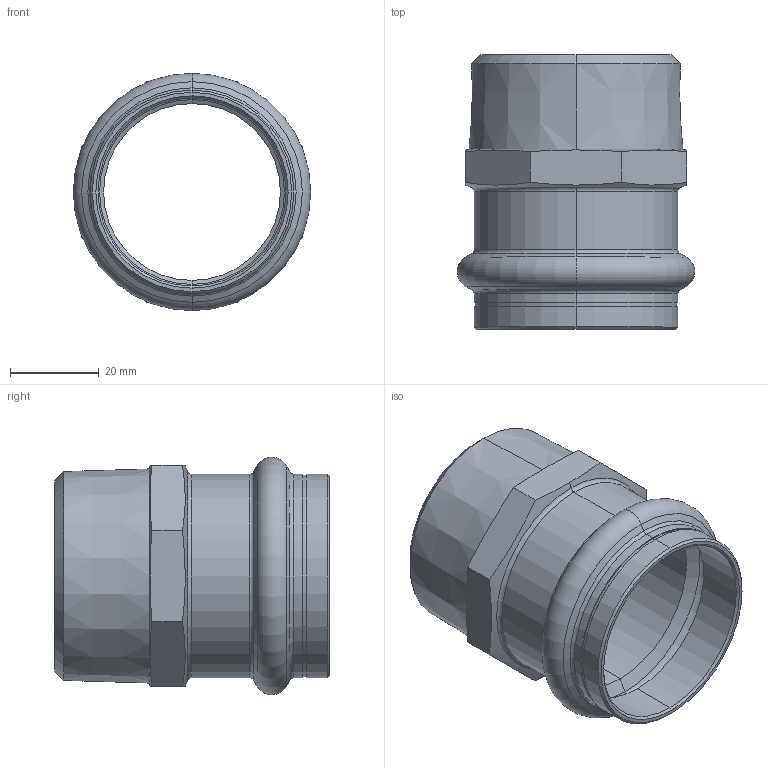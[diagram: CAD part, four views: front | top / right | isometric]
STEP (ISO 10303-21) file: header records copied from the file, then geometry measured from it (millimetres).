
FILE_DESCRIPTION (( 'STEP AP203' ), '1' );
FILE_NAME ('SP4243G Ø42 1 1-2.STEP', '2017-04-26T07:55:21', ( '' ), ( '' ), 'SwSTEP 2.0', 'SolidWorks 2016', '' );
FILE_SCHEMA (( 'CONFIG_CONTROL_DESIGN' ));
Length unit declared in the file: millimetre
Products named in the file (1): SP4243G Ø42 1 1-2
Bounding box: 53.6 x 62 x 53.6 mm (x, y, z)
Volume: 26401.7 mm3; surface area: 19853.6 mm2
Topology: 1 solids, 1 shells, 63 faces, 136 edges, 78 vertices
Faces by surface type: cone 24, cylinder 16, plane 13, torus 10
Entity records: 1851 total; most frequent: CARTESIAN_POINT 394, DIRECTION 312, ORIENTED_EDGE 272, EDGE_CURVE 136, AXIS2_PLACEMENT_3D 132, VERTEX_POINT 78, CIRCLE 68, EDGE_LOOP 68
